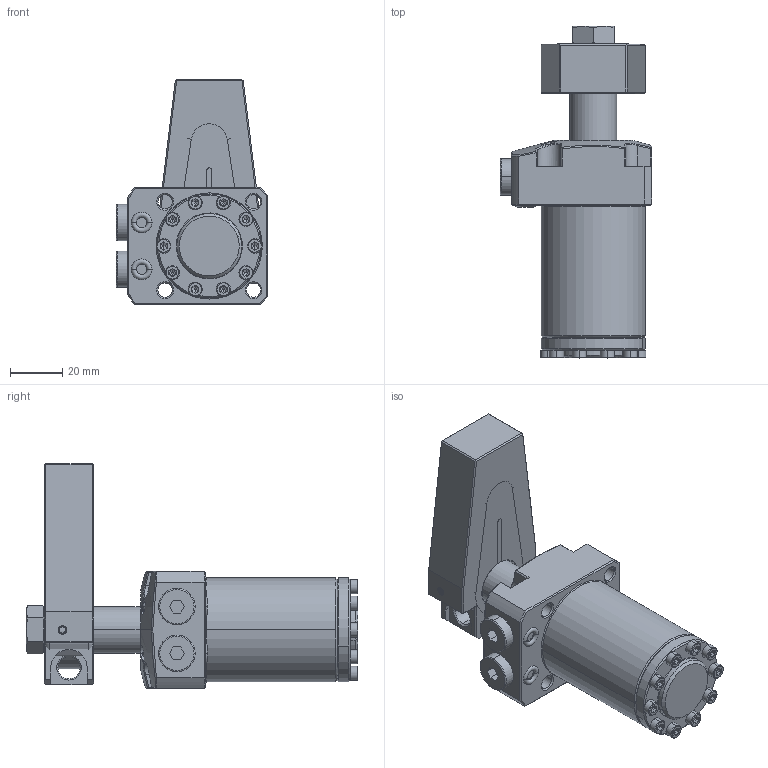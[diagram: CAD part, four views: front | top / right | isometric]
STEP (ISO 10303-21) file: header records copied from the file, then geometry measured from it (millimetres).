
FILE_DESCRIPTION((''),'2;1');
FILE_NAME('SIMP_GENERIC_SWING_CYD_40_ASM','2023-04-16T11:25:16',('Design 2'),(''),'CREO PARAMETRIC BY PTC INC, 2020053','CREO PARAMETRIC BY PTC INC, 2020053','');
FILE_SCHEMA(('CONFIG_CONTROL_DESIGN'));
Length unit declared in the file: millimetre
Products named in the file (16): BODY__; BODY_TOP_FLG___ASM; PISTON__; PISTON_ASM___ASM; SWINGER_ARM__; SWINGER_ARM_ASM___ASM; CLAMP__; HEXAGON_NUT__; CLAMP_2ND_TYPE__; 1_1_2_-__; 2_1_2_-__; HALDER_SEALING_PLUG_SSS22880000_ASM; ORING-5X1-5SS; ISHCS03X10; G-1-8-CLOSE_PLUGE; SIMP_GENERIC_SWING_CYD_40_ASM
Assembly tree (27 placements, depth 3):
  SIMP_GENERIC_SWING_CYD_40_ASM
    BODY_TOP_FLG___ASM
      BODY__
    PISTON_ASM___ASM
      PISTON__
    SWINGER_ARM_ASM___ASM
      SWINGER_ARM__
    CLAMP__
    HEXAGON_NUT__
    CLAMP_2ND_TYPE__
    HALDER_SEALING_PLUG_SSS22880000_ASM  x2
      1_1_2_-__
      2_1_2_-__
    ORING-5X1-5SS  x2
    ISHCS03X10  x10
    G-1-8-CLOSE_PLUGE  x2
Bounding box: 58.3 x 127.6 x 86.5 mm (x, y, z)
Volume: 195294.3 mm3; surface area: 55571.8 mm2
Topology: 24 solids, 24 shells, 1006 faces, 2351 edges, 1399 vertices
Faces by surface type: cylinder 327, plane 301, cone 247, bspline 77, torus 48, sphere 6
Entity records: 32745 total; most frequent: CARTESIAN_POINT 17657, ORIENTED_EDGE 3194, DIRECTION 2845, EDGE_CURVE 1597, AXIS2_PLACEMENT_3D 1063, VERTEX_POINT 985, EDGE_LOOP 722, VECTOR 719
